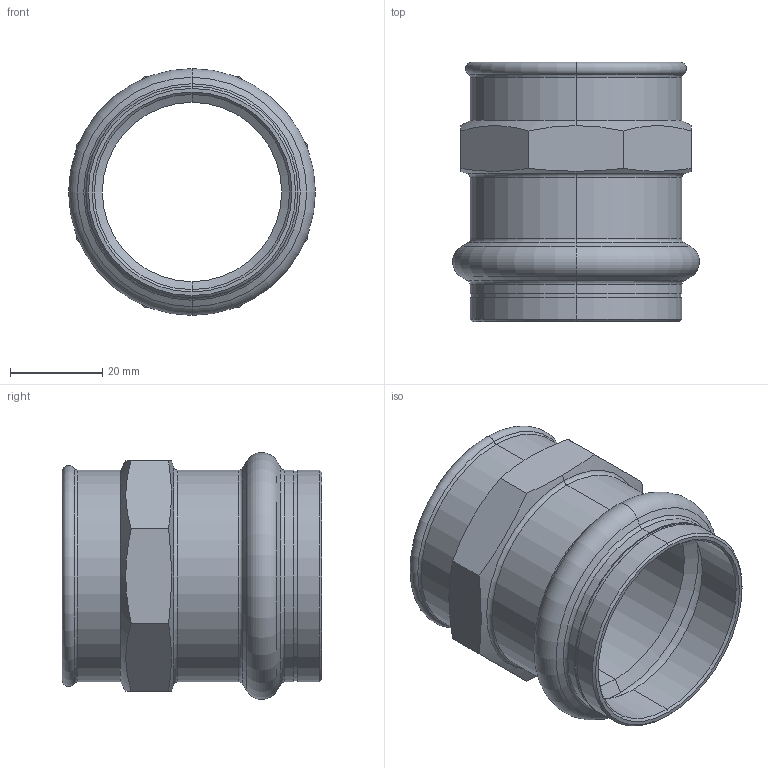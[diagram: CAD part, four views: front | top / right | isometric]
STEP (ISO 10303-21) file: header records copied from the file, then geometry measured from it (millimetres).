
FILE_DESCRIPTION (( 'STEP AP203' ), '1' );
FILE_NAME ('SP4270G Ø42 1 1-4.STEP', '2017-04-26T08:39:35', ( '' ), ( '' ), 'SwSTEP 2.0', 'SolidWorks 2016', '' );
FILE_SCHEMA (( 'CONFIG_CONTROL_DESIGN' ));
Length unit declared in the file: millimetre
Products named in the file (1): SP4270G Ø42 1 1-4
Bounding box: 53.6 x 56.3 x 53.6 mm (x, y, z)
Volume: 24141.5 mm3; surface area: 18443.3 mm2
Topology: 1 solids, 1 shells, 65 faces, 140 edges, 80 vertices
Faces by surface type: cone 20, cylinder 18, torus 14, plane 13
Entity records: 1957 total; most frequent: CARTESIAN_POINT 454, DIRECTION 326, ORIENTED_EDGE 280, EDGE_CURVE 140, AXIS2_PLACEMENT_3D 140, VERTEX_POINT 80, CIRCLE 74, EDGE_LOOP 70
